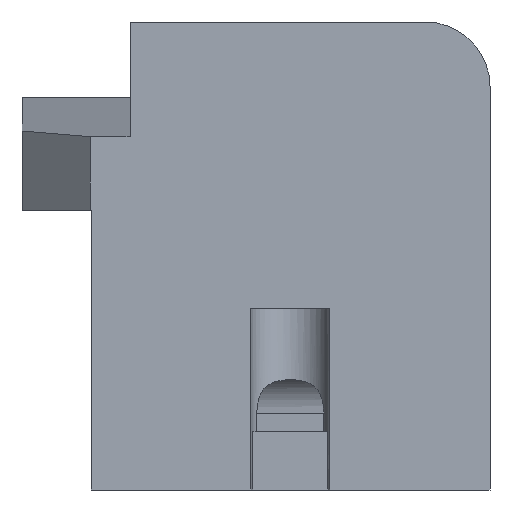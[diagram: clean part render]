
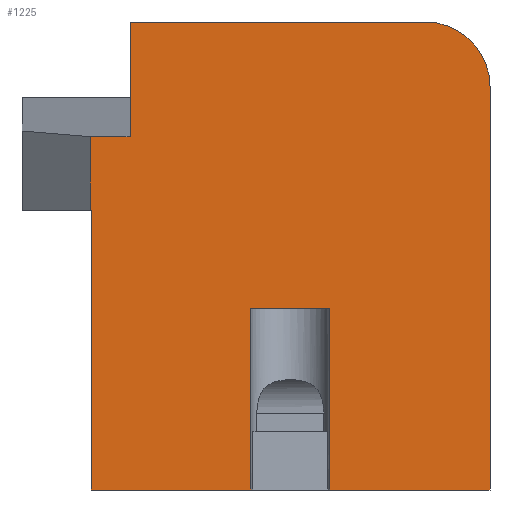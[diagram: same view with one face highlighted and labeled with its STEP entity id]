
A CAD part, front view. The second image highlights one B-rep face of the part: STEP entity #1225.
In plain terms, the highlighted planar face has unit normal (0, -1, 0).
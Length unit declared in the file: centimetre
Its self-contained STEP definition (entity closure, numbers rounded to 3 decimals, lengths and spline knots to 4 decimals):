
#6 = ORIENTED_EDGE ( 'NONE', *, *, #760, .F. ) ;
#10 = CARTESIAN_POINT ( 'NONE',  ( 0., 0., 0. ) ) ;
#23 = ORIENTED_EDGE ( 'NONE', *, *, #1230, .T. ) ;
#34 = EDGE_CURVE ( 'NONE', #390, #324, #1519, .T. ) ;
#40 = DIRECTION ( 'NONE',  ( 0., 0., -1. ) ) ;
#51 = VERTEX_POINT ( 'NONE', #924 ) ;
#109 = CARTESIAN_POINT ( 'NONE',  ( 145.9643, 0., 1000. ) ) ;
#114 = ORIENTED_EDGE ( 'NONE', *, *, #1502, .T. ) ;
#115 = CARTESIAN_POINT ( 'NONE',  ( 0., 0., 1000. ) ) ;
#117 = DIRECTION ( 'NONE',  ( 0., 0., -1. ) ) ;
#124 = CARTESIAN_POINT ( 'NONE',  ( 488.7589, 0., 387.2017 ) ) ;
#140 = ORIENTED_EDGE ( 'NONE', *, *, #448, .F. ) ;
#144 = ORIENTED_EDGE ( 'NONE', *, *, #1016, .F. ) ;
#164 = ORIENTED_EDGE ( 'NONE', *, *, #428, .T. ) ;
#190 = VERTEX_POINT ( 'NONE', #937 ) ;
#207 = DIRECTION ( 'NONE',  ( 0., 0., 1. ) ) ;
#227 = VERTEX_POINT ( 'NONE', #596 ) ;
#238 = VECTOR ( 'NONE', #1070, 100. ) ;
#240 = AXIS2_PLACEMENT_3D ( 'NONE', #919, #1280, #665 ) ;
#255 = VECTOR ( 'NONE', #207, 100. ) ;
#257 = DIRECTION ( 'NONE',  ( 1., 0., 0. ) ) ;
#324 = VERTEX_POINT ( 'NONE', #968 ) ;
#330 = LINE ( 'NONE', #1324, #255 ) ;
#337 = AXIS2_PLACEMENT_3D ( 'NONE', #482, #1476, #983 ) ;
#346 = CARTESIAN_POINT ( 'NONE',  ( 657.7109, 0., 387.2017 ) ) ;
#364 = LINE ( 'NONE', #115, #1569 ) ;
#371 = VECTOR ( 'NONE', #807, 100. ) ;
#390 = VERTEX_POINT ( 'NONE', #346 ) ;
#401 = CARTESIAN_POINT ( 'NONE',  ( 657.7109, 0., 387.2017 ) ) ;
#428 = EDGE_CURVE ( 'NONE', #190, #447, #864, .T. ) ;
#447 = VERTEX_POINT ( 'NONE', #1451 ) ;
#448 = EDGE_CURVE ( 'NONE', #1237, #1320, #330, .T. ) ;
#458 = LINE ( 'NONE', #731, #657 ) ;
#460 = CARTESIAN_POINT ( 'NONE',  ( 0., 0., 387.2017 ) ) ;
#482 = CARTESIAN_POINT ( 'NONE',  ( 861.8929, 0., 861.8929 ) ) ;
#487 = ORIENTED_EDGE ( 'NONE', *, *, #1032, .T. ) ;
#498 = VERTEX_POINT ( 'NONE', #1140 ) ;
#513 = ORIENTED_EDGE ( 'NONE', *, *, #861, .F. ) ;
#522 = CARTESIAN_POINT ( 'NONE',  ( 147.6921, 0., 597.9238 ) ) ;
#552 = LINE ( 'NONE', #1516, #371 ) ;
#555 = VECTOR ( 'NONE', #1575, 100. ) ;
#577 = DIRECTION ( 'NONE',  ( 0., 0., -1. ) ) ;
#592 = DIRECTION ( 'NONE',  ( 1., 0., 0. ) ) ;
#596 = CARTESIAN_POINT ( 'NONE',  ( 488.7589, 0., 387.2017 ) ) ;
#627 = CARTESIAN_POINT ( 'NONE',  ( 488.7589, 0., 0. ) ) ;
#657 = VECTOR ( 'NONE', #592, 100. ) ;
#663 = LINE ( 'NONE', #935, #1337 ) ;
#665 = DIRECTION ( 'NONE',  ( 0., 0., 1. ) ) ;
#669 = ORIENTED_EDGE ( 'NONE', *, *, #1352, .T. ) ;
#690 = VECTOR ( 'NONE', #40, 100. ) ;
#717 = CARTESIAN_POINT ( 'NONE',  ( 1000., 0., 0. ) ) ;
#718 = VERTEX_POINT ( 'NONE', #1447 ) ;
#731 = CARTESIAN_POINT ( 'NONE',  ( 0., 0., 0. ) ) ;
#734 = LINE ( 'NONE', #460, #238 ) ;
#736 = EDGE_CURVE ( 'NONE', #390, #227, #734, .T. ) ;
#756 = VECTOR ( 'NONE', #1155, 100. ) ;
#760 = EDGE_CURVE ( 'NONE', #190, #1491, #1465, .T. ) ;
#807 = DIRECTION ( 'NONE',  ( -1., 0., 0. ) ) ;
#829 = ORIENTED_EDGE ( 'NONE', *, *, #1454, .T. ) ;
#861 = EDGE_CURVE ( 'NONE', #1320, #447, #364, .T. ) ;
#864 = CIRCLE ( 'NONE', #337, 138.1071 ) ;
#869 = DIRECTION ( 'NONE',  ( 1., 0., 0. ) ) ;
#872 = LINE ( 'NONE', #124, #1257 ) ;
#903 = VERTEX_POINT ( 'NONE', #627 ) ;
#910 = CARTESIAN_POINT ( 'NONE',  ( 230.9224, 0., 1000. ) ) ;
#917 = DIRECTION ( 'NONE',  ( -1., 0., 0. ) ) ;
#919 = CARTESIAN_POINT ( 'NONE',  ( 0., 0., 1000. ) ) ;
#924 = CARTESIAN_POINT ( 'NONE',  ( 147.6921, 0., 597.9238 ) ) ;
#935 = CARTESIAN_POINT ( 'NONE',  ( 147.6921, 0., 597.9238 ) ) ;
#937 = CARTESIAN_POINT ( 'NONE',  ( 1000., 0., 861.8929 ) ) ;
#946 = CARTESIAN_POINT ( 'NONE',  ( 1000., 0., 1000. ) ) ;
#966 = CARTESIAN_POINT ( 'NONE',  ( 147.6921, 0., 0. ) ) ;
#968 = CARTESIAN_POINT ( 'NONE',  ( 657.7109, 0., 0. ) ) ;
#983 = DIRECTION ( 'NONE',  ( 0., 0., 1. ) ) ;
#1016 = EDGE_CURVE ( 'NONE', #227, #903, #872, .T. ) ;
#1032 = EDGE_CURVE ( 'NONE', #324, #1491, #1131, .T. ) ;
#1070 = DIRECTION ( 'NONE',  ( -1., 0., 0. ) ) ;
#1131 = LINE ( 'NONE', #10, #1179 ) ;
#1138 = ORIENTED_EDGE ( 'NONE', *, *, #1587, .F. ) ;
#1140 = CARTESIAN_POINT ( 'NONE',  ( 145.9643, 0., 754.8735 ) ) ;
#1150 = PLANE ( 'NONE',  #240 ) ;
#1155 = DIRECTION ( 'NONE',  ( 0., 0., -1. ) ) ;
#1179 = VECTOR ( 'NONE', #257, 100. ) ;
#1189 = LINE ( 'NONE', #522, #690 ) ;
#1209 = LINE ( 'NONE', #109, #555 ) ;
#1225 = ADVANCED_FACE ( 'NONE', ( #1482 ), #1150, .F. ) ;
#1230 = EDGE_CURVE ( 'NONE', #1237, #498, #552, .T. ) ;
#1237 = VERTEX_POINT ( 'NONE', #1551 ) ;
#1252 = ORIENTED_EDGE ( 'NONE', *, *, #736, .F. ) ;
#1257 = VECTOR ( 'NONE', #117, 100. ) ;
#1280 = DIRECTION ( 'NONE',  ( 0., 1., 0. ) ) ;
#1290 = EDGE_LOOP ( 'NONE', ( #140, #23, #829, #1138, #669, #114, #144, #1252, #1325, #487, #6, #164, #513 ) ) ;
#1320 = VERTEX_POINT ( 'NONE', #910 ) ;
#1324 = CARTESIAN_POINT ( 'NONE',  ( 230.9224, 0., 754.8735 ) ) ;
#1325 = ORIENTED_EDGE ( 'NONE', *, *, #34, .T. ) ;
#1337 = VECTOR ( 'NONE', #917, 100. ) ;
#1352 = EDGE_CURVE ( 'NONE', #51, #1374, #1189, .T. ) ;
#1374 = VERTEX_POINT ( 'NONE', #966 ) ;
#1409 = VECTOR ( 'NONE', #577, 100. ) ;
#1447 = CARTESIAN_POINT ( 'NONE',  ( 145.9643, 0., 597.9238 ) ) ;
#1451 = CARTESIAN_POINT ( 'NONE',  ( 861.8929, 0., 1000. ) ) ;
#1454 = EDGE_CURVE ( 'NONE', #498, #718, #1209, .T. ) ;
#1465 = LINE ( 'NONE', #946, #1409 ) ;
#1476 = DIRECTION ( 'NONE',  ( 0., -1., 0. ) ) ;
#1482 = FACE_OUTER_BOUND ( 'NONE', #1290, .T. ) ;
#1491 = VERTEX_POINT ( 'NONE', #717 ) ;
#1502 = EDGE_CURVE ( 'NONE', #1374, #903, #458, .T. ) ;
#1516 = CARTESIAN_POINT ( 'NONE',  ( 230.9224, 0., 754.8735 ) ) ;
#1519 = LINE ( 'NONE', #401, #756 ) ;
#1551 = CARTESIAN_POINT ( 'NONE',  ( 230.9224, 0., 754.8735 ) ) ;
#1569 = VECTOR ( 'NONE', #869, 100. ) ;
#1575 = DIRECTION ( 'NONE',  ( 0., 0., -1. ) ) ;
#1587 = EDGE_CURVE ( 'NONE', #51, #718, #663, .T. ) ;
